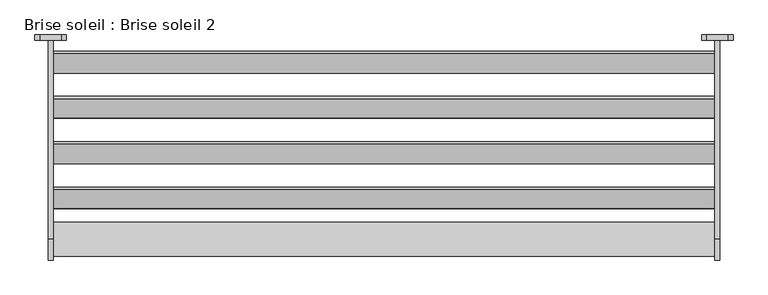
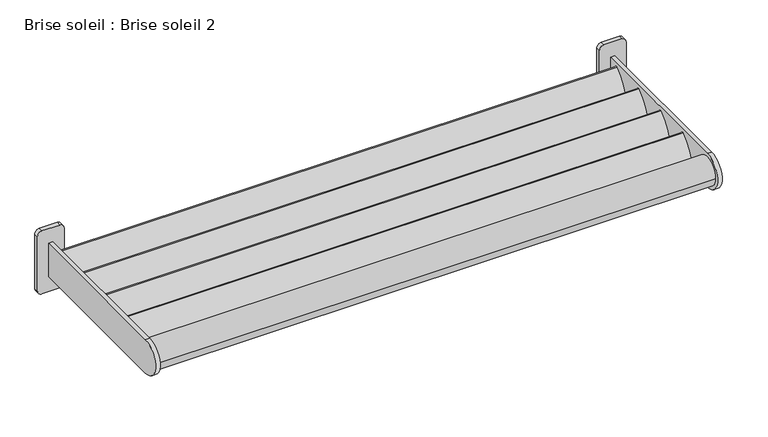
"""IFC4 building model written with IfcOpenShell, lengths in millimetres: proxy geometry, Brise soleil : Brise soleil 2."""

from ifc_helpers import new_model, si_unit, point, frame, frame_2d, origin, place, context, project, spatial, circle_curve, trimmed, segment, composite_curve, outline, extrude, source, transform, mapped, element, save
from ifc_brep_helpers import plane_surface, cylinder_surface, advanced_brep


def brise_soleil_brise_soleil_2_2f088475(model_context):
    return source(origin(), model_context, "Body", "SolidModel", [
        extrude(outline(composite_curve([segment(trimmed(circle_curve(frame_2d((-130.7023044, 870.0937882)), 187.4135018), [point((-316.9440789, 891.0179864))], [point((-241.9440789, 1020.921797))], False, "CARTESIAN"), True, "CONTINUOUS"), segment(trimmed(circle_curve(frame_2d((-238.9762625, 1016.8978604)), 5.0), [point((-241.9440789, 1020.921797))], [point((-236.0084461, 1012.8739239))], False, "CARTESIAN"), True, "CONTINUOUS"), segment(trimmed(circle_curve(frame_2d((-130.7023044, 870.0937882)), 177.4135018), [point((-236.0084461, 1012.8739239))], [point((-307.0065999, 889.9015141))], True, "CARTESIAN"), True, "CONTINUOUS"), segment(trimmed(circle_curve(frame_2d((-311.9753394, 890.4597503)), 5.0), [point((-307.0065999, 889.9015141))], [point((-316.9440789, 891.0179864))], False, "CARTESIAN"), True, "CONTINUOUS")], self_intersect=False)), frame((20.0, 0.0, 0.0), z_axis=(1.0, 0.0, 0.0), x_axis=(0.0, 1.0, 0.0)), (0.0, 0.0, 1.0), 2514.0517824),
        extrude(outline(composite_curve([segment(trimmed(circle_curve(frame_2d((-302.7849736, 870.0937882)), 187.4135018), [point((-489.0267481, 891.0179864))], [point((-414.0267481, 1020.921797))], False, "CARTESIAN"), True, "CONTINUOUS"), segment(trimmed(circle_curve(frame_2d((-411.0589317, 1016.8978604)), 5.0), [point((-414.0267481, 1020.921797))], [point((-408.0911153, 1012.8739239))], False, "CARTESIAN"), True, "CONTINUOUS"), segment(trimmed(circle_curve(frame_2d((-302.7849736, 870.0937882)), 177.4135018), [point((-408.0911153, 1012.8739239))], [point((-479.0892691, 889.9015141))], True, "CARTESIAN"), True, "CONTINUOUS"), segment(trimmed(circle_curve(frame_2d((-484.0580086, 890.4597503)), 5.0), [point((-479.0892691, 889.9015141))], [point((-489.0267481, 891.0179864))], False, "CARTESIAN"), True, "CONTINUOUS")], self_intersect=False)), frame((20.0, 0.0, 0.0), z_axis=(1.0, 0.0, 0.0), x_axis=(0.0, 1.0, 0.0)), (0.0, 0.0, 1.0), 2514.0517824),
        extrude(outline(composite_curve([segment(trimmed(circle_curve(frame_2d((41.3803648, 870.0937882)), 187.4135018), [point((-144.8614097, 891.0179864))], [point((-69.8614097, 1020.921797))], False, "CARTESIAN"), True, "CONTINUOUS"), segment(trimmed(circle_curve(frame_2d((-66.8935933, 1016.8978604)), 5.0), [point((-69.8614097, 1020.921797))], [point((-63.9257768, 1012.8739239))], False, "CARTESIAN"), True, "CONTINUOUS"), segment(trimmed(circle_curve(frame_2d((41.3803648, 870.0937882)), 177.4135018), [point((-63.9257768, 1012.8739239))], [point((-134.9239307, 889.9015141))], True, "CARTESIAN"), True, "CONTINUOUS"), segment(trimmed(circle_curve(frame_2d((-139.8926702, 890.4597503)), 5.0), [point((-134.9239307, 889.9015141))], [point((-144.8614097, 891.0179864))], False, "CARTESIAN"), True, "CONTINUOUS")], self_intersect=False)), frame((20.0, 0.0, 0.0), z_axis=(1.0, 0.0, 0.0), x_axis=(0.0, 1.0, 0.0)), (0.0, 0.0, 1.0), 2514.0517824),
        extrude(outline(composite_curve([segment(trimmed(circle_curve(frame_2d((-474.8676428, 870.0937882)), 187.4135018), [point((-661.1094173, 891.0179864))], [point((-586.1094173, 1020.921797))], False, "CARTESIAN"), True, "CONTINUOUS"), segment(trimmed(circle_curve(frame_2d((-583.1416009, 1016.8978604)), 5.0), [point((-586.1094173, 1020.921797))], [point((-580.1737845, 1012.8739239))], False, "CARTESIAN"), True, "CONTINUOUS"), segment(trimmed(circle_curve(frame_2d((-474.8676428, 870.0937882)), 177.4135018), [point((-580.1737845, 1012.8739239))], [point((-651.1719383, 889.9015141))], True, "CARTESIAN"), True, "CONTINUOUS"), segment(trimmed(circle_curve(frame_2d((-656.1406778, 890.4597503)), 5.0), [point((-651.1719383, 889.9015141))], [point((-661.1094173, 891.0179864))], False, "CARTESIAN"), True, "CONTINUOUS")], self_intersect=False)), frame((20.0, 0.0, 0.0), z_axis=(1.0, 0.0, 0.0), x_axis=(0.0, 1.0, 0.0)), (0.0, 0.0, 1.0), 2514.0517824),
        advanced_brep(
        [(2584.0517824, -20.0, 1107.5), (2504.0517824, -20.0, 1107.5), (2484.0517824, -20.0, 1087.5), (2484.0517824, -20.0, 827.5), (2504.0517824, -20.0, 807.5), (2584.0517824, -20.0, 807.5), (2604.0517824, -20.0, 827.5), (2604.0517824, -20.0, 1087.5), (2554.0517824, -20.0, 1037.5), (2554.0517824, -20.0, 877.5), (2534.0517824, -20.0, 877.5), (2534.0517824, -20.0, 1037.5), (2584.0517824, 0.0, 1107.5), (2604.0517824, 0.0, 1087.5), (2604.0517824, 0.0, 827.5), (2584.0517824, 0.0, 807.5), (2504.0517824, 0.0, 807.5), (2484.0517824, 0.0, 827.5), (2484.0517824, 0.0, 1087.5), (2504.0517824, 0.0, 1107.5), (2554.0517824, -776.2480076, 1037.5), (2554.0517824, -776.2480076, 877.5), (2534.0517824, -776.2480076, 877.5), (2534.0517824, -776.2480076, 1037.5)],
        [
            (0, 1),
            (1, 2, circle_curve(frame((2504.0517824, -20.0, 1087.5), z_axis=(0.0, -1.0, 0.0), x_axis=(1.0, 0.0, 0.0)), 20.0)),
            (2, 3),
            (3, 4, circle_curve(frame((2504.0517824, -20.0, 827.5), z_axis=(0.0, -1.0, 0.0), x_axis=(1.0, 0.0, 0.0)), 20.0)),
            (4, 5),
            (5, 6, circle_curve(frame((2584.0517824, -20.0, 827.5), z_axis=(0.0, -1.0, 0.0), x_axis=(1.0, 0.0, 0.0)), 20.0)),
            (6, 7),
            (7, 0, circle_curve(frame((2584.0517824, -20.0, 1087.5), z_axis=(0.0, -1.0, 0.0), x_axis=(1.0, 0.0, 0.0)), 20.0)),
            (8, 9),
            (9, 10),
            (10, 11),
            (11, 8),
            (12, 13, circle_curve(frame((2584.0517824, 0.0, 1087.5), z_axis=(0.0, 1.0, 0.0), x_axis=(1.0, 0.0, 0.0)), 20.0)),
            (13, 14),
            (14, 15, circle_curve(frame((2584.0517824, 0.0, 827.5), z_axis=(0.0, 1.0, 0.0), x_axis=(1.0, 0.0, 0.0)), 20.0)),
            (15, 16),
            (16, 17, circle_curve(frame((2504.0517824, 0.0, 827.5), z_axis=(0.0, 1.0, 0.0), x_axis=(1.0, 0.0, 0.0)), 20.0)),
            (17, 18),
            (18, 19, circle_curve(frame((2504.0517824, 0.0, 1087.5), z_axis=(0.0, 1.0, 0.0), x_axis=(1.0, 0.0, 0.0)), 20.0)),
            (19, 12),
            (0, 12),
            (19, 1),
            (18, 2),
            (17, 3),
            (16, 4),
            (15, 5),
            (14, 6),
            (13, 7),
            (20, 21, circle_curve(frame((2554.0517824, -776.2480076, 957.5), z_axis=(1.0, 0.0, 0.0), x_axis=(0.0, 1.0, 0.0)), 80.0)),
            (21, 9),
            (8, 20),
            (22, 23, circle_curve(frame((2534.0517824, -776.2480076, 957.5), z_axis=(-1.0, 0.0, 0.0), x_axis=(0.0, 1.0, 0.0)), 80.0)),
            (23, 11),
            (10, 22),
            (20, 23),
            (22, 21),
        ],
        [
            plane_surface(frame((2423.4304763, -20.0, 1107.5), z_axis=(0.0, -1.0, 0.0), x_axis=(-1.0, 0.0, 0.0))),
            plane_surface(frame((2423.4304763, 0.0, 1107.5), z_axis=(0.0, 1.0, 0.0), x_axis=(1.0, 0.0, 0.0))),
            plane_surface(frame((2584.0517824, -20.0, 1107.5), z_axis=(0.0, 0.0, 1.0), x_axis=(0.0, 1.0, 0.0))),
            cylinder_surface(frame((2504.0517824, 0.0, 1087.5), z_axis=(0.0, -1.0, 0.0), x_axis=(1.0, 0.0, 0.0)), 20.0),
            plane_surface(frame((2484.0517824, -20.0, 1087.5), z_axis=(-1.0, 0.0, 0.0), x_axis=(0.0, 1.0, 0.0))),
            cylinder_surface(frame((2504.0517824, 0.0, 827.5), z_axis=(0.0, -1.0, 0.0), x_axis=(1.0, 0.0, 0.0)), 20.0),
            plane_surface(frame((2504.0517824, -20.0, 807.5), z_axis=(0.0, 0.0, -1.0), x_axis=(0.0, 1.0, 0.0))),
            cylinder_surface(frame((2584.0517824, 0.0, 827.5), z_axis=(0.0, -1.0, 0.0), x_axis=(1.0, 0.0, 0.0)), 20.0),
            plane_surface(frame((2604.0517824, -20.0, 827.5), z_axis=(1.0, 0.0, 0.0), x_axis=(0.0, 1.0, 0.0))),
            cylinder_surface(frame((2584.0517824, 0.0, 1087.5), z_axis=(0.0, -1.0, 0.0), x_axis=(1.0, 0.0, 0.0)), 20.0),
            plane_surface(frame((2554.0517824, -696.2480076, 957.5), z_axis=(1.0, 0.0, 0.0), x_axis=(0.0, 0.0, 1.0))),
            plane_surface(frame((2534.0517824, -696.2480076, 957.5), z_axis=(-1.0, 0.0, 0.0), x_axis=(0.0, 0.0, -1.0))),
            cylinder_surface(frame((2534.0517824, -776.2480076, 957.5), z_axis=(1.0, 0.0, 0.0), x_axis=(0.0, 1.0, 0.0)), 80.0),
            plane_surface(frame((2554.0517824, -776.2480076, 877.5), z_axis=(0.0, 0.0, -1.0), x_axis=(-1.0, 0.0, 0.0))),
            plane_surface(frame((2554.0517824, 0.0, 1037.5), z_axis=(0.0, 0.0, 1.0), x_axis=(-1.0, 0.0, 0.0))),
        ],
        [
            (0, [[1, 2, 3, 4, 5, 6, 7, 8], [9, 10, 11, 12]]),
            (1, [[13, 14, 15, 16, 17, 18, 19, 20]]),
            (2, [[-1, 21, -20, 22]]),
            (3, [[-2, -22, -19, 23]]),
            (4, [[-3, -23, -18, 24]]),
            (5, [[-4, -24, -17, 25]]),
            (6, [[-5, -25, -16, 26]]),
            (7, [[-6, -26, -15, 27]]),
            (8, [[-7, -27, -14, 28]]),
            (9, [[-8, -28, -13, -21]]),
            (10, [[29, 30, -9, 31]]),
            (11, [[32, 33, -11, 34]]),
            (12, [[-29, 35, -32, 36]]),
            (13, [[-36, -34, -10, -30]]),
            (14, [[-35, -31, -12, -33]]),
        ],
    ),
        advanced_brep(
        [(50.0, -20.0, 1107.5), (-30.0, -20.0, 1107.5), (-50.0, -20.0, 1087.5), (-50.0, -20.0, 827.5), (-30.0, -20.0, 807.5), (50.0, -20.0, 807.5), (70.0, -20.0, 827.5), (70.0, -20.0, 1087.5), (20.0, -20.0, 1037.5), (20.0, -20.0, 877.5), (0.0, -20.0, 877.5), (0.0, -20.0, 1037.5), (50.0, 0.0, 1107.5), (70.0, 0.0, 1087.5), (70.0, 0.0, 827.5), (50.0, 0.0, 807.5), (-30.0, 0.0, 807.5), (-50.0, 0.0, 827.5), (-50.0, 0.0, 1087.5), (-30.0, 0.0, 1107.5), (20.0, -776.2480076, 1037.5), (20.0, -776.2480076, 877.5), (0.0, -776.2480076, 877.5), (0.0, -776.2480076, 1037.5)],
        [
            (0, 1),
            (1, 2, circle_curve(frame((-30.0, -20.0, 1087.5), z_axis=(0.0, -1.0, 0.0), x_axis=(1.0, 0.0, 0.0)), 20.0)),
            (2, 3),
            (3, 4, circle_curve(frame((-30.0, -20.0, 827.5), z_axis=(0.0, -1.0, 0.0), x_axis=(1.0, 0.0, 0.0)), 20.0)),
            (4, 5),
            (5, 6, circle_curve(frame((50.0, -20.0, 827.5), z_axis=(0.0, -1.0, 0.0), x_axis=(1.0, 0.0, 0.0)), 20.0)),
            (6, 7),
            (7, 0, circle_curve(frame((50.0, -20.0, 1087.5), z_axis=(0.0, -1.0, 0.0), x_axis=(1.0, 0.0, 0.0)), 20.0)),
            (8, 9),
            (9, 10),
            (10, 11),
            (11, 8),
            (12, 13, circle_curve(frame((50.0, 0.0, 1087.5), z_axis=(0.0, 1.0, 0.0), x_axis=(1.0, 0.0, 0.0)), 20.0)),
            (13, 14),
            (14, 15, circle_curve(frame((50.0, 0.0, 827.5), z_axis=(0.0, 1.0, 0.0), x_axis=(1.0, 0.0, 0.0)), 20.0)),
            (15, 16),
            (16, 17, circle_curve(frame((-30.0, 0.0, 827.5), z_axis=(0.0, 1.0, 0.0), x_axis=(1.0, 0.0, 0.0)), 20.0)),
            (17, 18),
            (18, 19, circle_curve(frame((-30.0, 0.0, 1087.5), z_axis=(0.0, 1.0, 0.0), x_axis=(1.0, 0.0, 0.0)), 20.0)),
            (19, 12),
            (0, 12),
            (19, 1),
            (18, 2),
            (17, 3),
            (16, 4),
            (15, 5),
            (14, 6),
            (13, 7),
            (20, 21, circle_curve(frame((20.0, -776.2480076, 957.5), z_axis=(1.0, 0.0, 0.0), x_axis=(0.0, 1.0, 0.0)), 80.0)),
            (21, 9),
            (8, 20),
            (22, 23, circle_curve(frame((0.0, -776.2480076, 957.5), z_axis=(-1.0, 0.0, 0.0), x_axis=(0.0, 1.0, 0.0)), 80.0)),
            (23, 11),
            (10, 22),
            (20, 23),
            (22, 21),
        ],
        [
            plane_surface(frame((-110.6213062, -20.0, 1107.5), z_axis=(0.0, -1.0, 0.0), x_axis=(-1.0, 0.0, 0.0))),
            plane_surface(frame((-110.6213062, 0.0, 1107.5), z_axis=(0.0, 1.0, 0.0), x_axis=(1.0, 0.0, 0.0))),
            plane_surface(frame((50.0, -20.0, 1107.5), z_axis=(0.0, 0.0, 1.0), x_axis=(0.0, 1.0, 0.0))),
            cylinder_surface(frame((-30.0, 0.0, 1087.5), z_axis=(0.0, -1.0, 0.0), x_axis=(1.0, 0.0, 0.0)), 20.0),
            plane_surface(frame((-50.0, -20.0, 1087.5), z_axis=(-1.0, 0.0, 0.0), x_axis=(0.0, 1.0, 0.0))),
            cylinder_surface(frame((-30.0, 0.0, 827.5), z_axis=(0.0, -1.0, 0.0), x_axis=(1.0, 0.0, 0.0)), 20.0),
            plane_surface(frame((-30.0, -20.0, 807.5), z_axis=(0.0, 0.0, -1.0), x_axis=(0.0, 1.0, 0.0))),
            cylinder_surface(frame((50.0, 0.0, 827.5), z_axis=(0.0, -1.0, 0.0), x_axis=(1.0, 0.0, 0.0)), 20.0),
            plane_surface(frame((70.0, -20.0, 827.5), z_axis=(1.0, 0.0, 0.0), x_axis=(0.0, 1.0, 0.0))),
            cylinder_surface(frame((50.0, 0.0, 1087.5), z_axis=(0.0, -1.0, 0.0), x_axis=(1.0, 0.0, 0.0)), 20.0),
            plane_surface(frame((20.0, -696.2480076, 957.5), z_axis=(1.0, 0.0, 0.0), x_axis=(0.0, 0.0, 1.0))),
            plane_surface(frame((0.0, -696.2480076, 957.5), z_axis=(-1.0, 0.0, 0.0), x_axis=(0.0, 0.0, -1.0))),
            cylinder_surface(frame((0.0, -776.2480076, 957.5), z_axis=(1.0, 0.0, 0.0), x_axis=(0.0, 1.0, 0.0)), 80.0),
            plane_surface(frame((20.0, -776.2480076, 877.5), z_axis=(0.0, 0.0, -1.0), x_axis=(-1.0, 0.0, 0.0))),
            plane_surface(frame((20.0, 0.0, 1037.5), z_axis=(0.0, 0.0, 1.0), x_axis=(-1.0, 0.0, 0.0))),
        ],
        [
            (0, [[1, 2, 3, 4, 5, 6, 7, 8], [9, 10, 11, 12]]),
            (1, [[13, 14, 15, 16, 17, 18, 19, 20]]),
            (2, [[-1, 21, -20, 22]]),
            (3, [[-2, -22, -19, 23]]),
            (4, [[-3, -23, -18, 24]]),
            (5, [[-4, -24, -17, 25]]),
            (6, [[-5, -25, -16, 26]]),
            (7, [[-6, -26, -15, 27]]),
            (8, [[-7, -27, -14, 28]]),
            (9, [[-8, -28, -13, -21]]),
            (10, [[29, 30, -9, 31]]),
            (11, [[32, 33, -11, 34]]),
            (12, [[-29, 35, -32, 36]]),
            (13, [[-36, -34, -10, -30]]),
            (14, [[-35, -31, -12, -33]]),
        ],
    ),
        extrude(outline(composite_curve([segment(trimmed(circle_curve(frame_2d((-776.2480076, 957.5)), 65.0), [point((-841.2480076, 957.5))], [point((-711.2480076, 957.5))], False, "CARTESIAN"), True, "CONTINUOUS"), segment(trimmed(circle_curve(frame_2d((-776.2480076, 957.5)), 65.0), [point((-711.2480076, 957.5))], [point((-841.2480076, 957.5))], False, "CARTESIAN"), True, "CONTINUOUS")], self_intersect=False)), frame((20.0, 0.0, 0.0), z_axis=(1.0, 0.0, 0.0), x_axis=(0.0, 1.0, 0.0)), (0.0, 0.0, 1.0), 2514.0517824),
    ])


if __name__ == "__main__":
    model = new_model("IFC4")
    model_context = context("Model", 3, world=origin())
    ifc_project = project(units=[si_unit("LENGTHUNIT", "METRE", prefix="MILLI")], contexts=[model_context])
    site = spatial("IfcSite", under=ifc_project)
    building = spatial("IfcBuilding", under=site)
    placement = place(None, origin())
    brise_soleil_brise_soleil_2_shape = brise_soleil_brise_soleil_2_2f088475(model_context)
    element("IfcBuildingElementProxy", 1, Name="Brise soleil : Brise soleil 2", ObjectType="Brise soleil : Brise soleil 2", at=placement, inside=building, context=model_context, shape_type="MappedRepresentation", body=[
        mapped(brise_soleil_brise_soleil_2_shape, transform((0.0, 0.0, 0.0), x_axis=(1.0, 0.0, 0.0), y_axis=(0.0, 1.0, 0.0), z_axis=(0.0, 0.0, 1.0))),
    ])
    save(model, "model.ifc")
